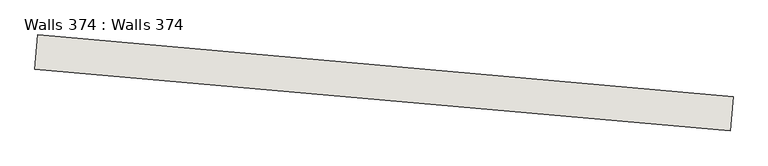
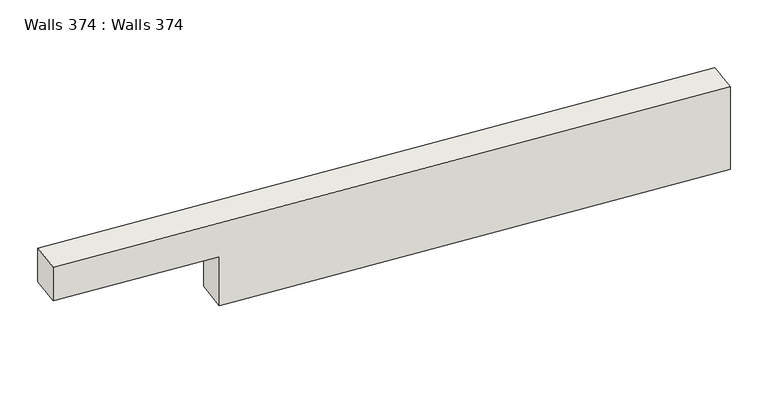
"""IFC4 building model written with IfcOpenShell, lengths in millimetres: wall geometry, Walls 374 : Walls 374."""

from ifc_helpers import new_model, si_unit, frame, origin, place, context, project, spatial, polyline, outline, extrude, source, transform, mapped, element, save


def walls_374_walls_374_8a29e2e0(model_context):
    return source(origin(), model_context, "Body", "SweptSolid", [
        extrude(outline(polyline([(0.0, -1100.0), (0.0, 0.0), (8150.0000001, 0.0), (8150.0000001, -450.0), (6150.0000001, -450.0), (6150.0000001, -1100.0), (0.0, -1100.0)])), frame((-658732.2485463, -420394.8552275, 636960.0), z_axis=(0.0887373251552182, 0.996055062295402, 0.0), x_axis=(-0.996055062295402, 0.0887373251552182, 0.0)), (0.0, 0.0, 1.0), 400.0),
    ])


if __name__ == "__main__":
    model = new_model("IFC4")
    model_context = context("Model", 3, world=origin())
    ifc_project = project(units=[si_unit("LENGTHUNIT", "METRE", prefix="MILLI")], contexts=[model_context])
    site = spatial("IfcSite", under=ifc_project)
    building = spatial("IfcBuilding", under=site)
    placement = place(None, origin())
    walls_374_walls_374_shape = walls_374_walls_374_8a29e2e0(model_context)
    element("IfcWall", 1, ObjectType="Walls 374 : Walls 374", at=placement, inside=building, context=model_context, shape_type="MappedRepresentation", body=[
        mapped(walls_374_walls_374_shape, transform((0.0, 0.0, 0.0), x_axis=(1.0, 0.0, 0.0), y_axis=(0.0, 1.0, 0.0), z_axis=(0.0, 0.0, 1.0))),
    ])
    save(model, "model.ifc")
